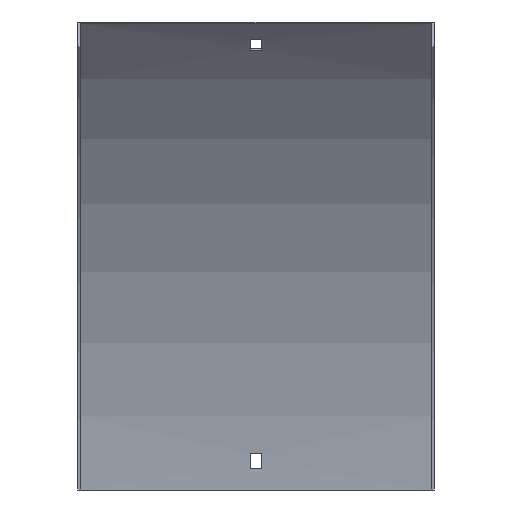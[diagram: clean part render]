
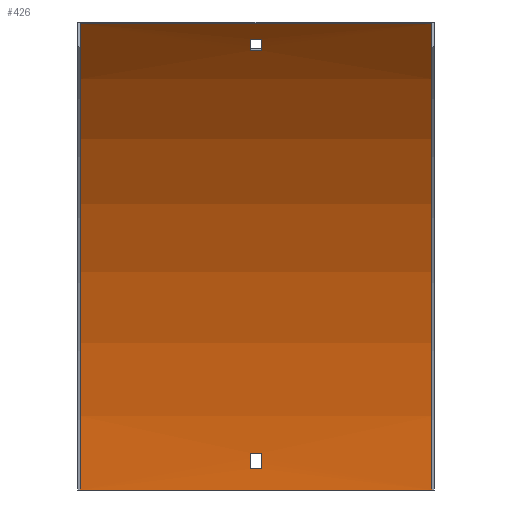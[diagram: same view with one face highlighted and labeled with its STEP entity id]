
A CAD part, front view. The second image highlights one B-rep face of the part: STEP entity #426.
In plain terms, the highlighted cylindrical face has radius 375 mm (diameter 750 mm), a partial arc.
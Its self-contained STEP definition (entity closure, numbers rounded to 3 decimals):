
#1 = CARTESIAN_POINT ( 'NONE',  ( 101.5, -376.5, 0. ) ) ;
#5 = DIRECTION ( 'NONE',  ( -1., 0., 0. ) ) ;
#17 = DIRECTION ( 'NONE',  ( 1., 0., 0. ) ) ;
#22 = CARTESIAN_POINT ( 'NONE',  ( -3.25, -376.5, 0. ) ) ;
#24 = VERTEX_POINT ( 'NONE', #91 ) ;
#30 = CARTESIAN_POINT ( 'NONE',  ( 3.25, -96.902, 249.9 ) ) ;
#36 = ORIENTED_EDGE ( 'NONE', *, *, #331, .T. ) ;
#42 = AXIS2_PLACEMENT_3D ( 'NONE', #203, #387, #578 ) ;
#44 = CARTESIAN_POINT ( 'NONE',  ( 3.25, -376.5, 0. ) ) ;
#59 = DIRECTION ( 'NONE',  ( 1., 0., 0. ) ) ;
#60 = ORIENTED_EDGE ( 'NONE', *, *, #549, .F. ) ;
#62 = VECTOR ( 'NONE', #603, 1000. ) ;
#63 = EDGE_CURVE ( 'NONE', #490, #299, #401, .T. ) ;
#67 = EDGE_LOOP ( 'NONE', ( #177, #158, #397, #457 ) ) ;
#71 = EDGE_LOOP ( 'NONE', ( #118, #60, #410, #191 ) ) ;
#77 = CARTESIAN_POINT ( 'NONE',  ( 3.25, -2.088, 21. ) ) ;
#83 = FACE_OUTER_BOUND ( 'NONE', #71, .T. ) ;
#85 = AXIS2_PLACEMENT_3D ( 'NONE', #206, #571, #389 ) ;
#91 = CARTESIAN_POINT ( 'NONE',  ( -3.25, -1.692, 12. ) ) ;
#100 = DIRECTION ( 'NONE',  ( -1., 0., 0. ) ) ;
#117 = DIRECTION ( 'NONE',  ( -1., 0., 0. ) ) ;
#118 = ORIENTED_EDGE ( 'NONE', *, *, #251, .F. ) ;
#122 = LINE ( 'NONE', #416, #62 ) ;
#135 = AXIS2_PLACEMENT_3D ( 'NONE', #366, #456, #501 ) ;
#136 = AXIS2_PLACEMENT_3D ( 'NONE', #537, #157, #347 ) ;
#146 = LINE ( 'NONE', #432, #480 ) ;
#157 = DIRECTION ( 'NONE',  ( 1., 0., 0. ) ) ;
#158 = ORIENTED_EDGE ( 'NONE', *, *, #562, .F. ) ;
#159 = DIRECTION ( 'NONE',  ( -1., 0., 0. ) ) ;
#162 = VERTEX_POINT ( 'NONE', #282 ) ;
#167 = DIRECTION ( 'NONE',  ( 1., 0., 0. ) ) ;
#175 = FACE_BOUND ( 'NONE', #393, .T. ) ;
#177 = ORIENTED_EDGE ( 'NONE', *, *, #497, .F. ) ;
#185 = DIRECTION ( 'NONE',  ( 0., 0., 1. ) ) ;
#191 = ORIENTED_EDGE ( 'NONE', *, *, #382, .T. ) ;
#194 = EDGE_CURVE ( 'NONE', #24, #162, #208, .T. ) ;
#196 = CARTESIAN_POINT ( 'NONE',  ( -3.25, -96.902, 249.9 ) ) ;
#203 = CARTESIAN_POINT ( 'NONE',  ( 3.25, -376.5, 0. ) ) ;
#206 = CARTESIAN_POINT ( 'NONE',  ( -3.25, -376.5, 0. ) ) ;
#207 = VERTEX_POINT ( 'NONE', #351 ) ;
#208 = LINE ( 'NONE', #298, #312 ) ;
#211 = CIRCLE ( 'NONE', #136, 375. ) ;
#215 = CARTESIAN_POINT ( 'NONE',  ( -100., -111.335, 265.165 ) ) ;
#249 = CARTESIAN_POINT ( 'NONE',  ( 100., -1.5, 0. ) ) ;
#251 = EDGE_CURVE ( 'NONE', #334, #576, #211, .T. ) ;
#255 = LINE ( 'NONE', #447, #523 ) ;
#257 = ORIENTED_EDGE ( 'NONE', *, *, #63, .T. ) ;
#265 = CARTESIAN_POINT ( 'NONE',  ( 100., -1.5, 0. ) ) ;
#277 = VECTOR ( 'NONE', #117, 1000. ) ;
#282 = CARTESIAN_POINT ( 'NONE',  ( 3.25, -1.692, 12. ) ) ;
#296 = EDGE_CURVE ( 'NONE', #492, #544, #375, .T. ) ;
#298 = CARTESIAN_POINT ( 'NONE',  ( 101.5, -1.692, 12. ) ) ;
#299 = VERTEX_POINT ( 'NONE', #30 ) ;
#305 = VERTEX_POINT ( 'NONE', #583 ) ;
#309 = FACE_BOUND ( 'NONE', #67, .T. ) ;
#312 = VECTOR ( 'NONE', #59, 1000. ) ;
#331 = EDGE_CURVE ( 'NONE', #544, #490, #146, .T. ) ;
#333 = EDGE_CURVE ( 'NONE', #299, #492, #335, .T. ) ;
#334 = VERTEX_POINT ( 'NONE', #476 ) ;
#335 = LINE ( 'NONE', #520, #478 ) ;
#343 = EDGE_CURVE ( 'NONE', #162, #540, #378, .T. ) ;
#347 = DIRECTION ( 'NONE',  ( 0., 0., -1. ) ) ;
#351 = CARTESIAN_POINT ( 'NONE',  ( -3.25, -2.088, 21. ) ) ;
#366 = CARTESIAN_POINT ( 'NONE',  ( 100., -376.5, 0. ) ) ;
#375 = CIRCLE ( 'NONE', #600, 375. ) ;
#378 = CIRCLE ( 'NONE', #42, 375. ) ;
#382 = EDGE_CURVE ( 'NONE', #305, #576, #122, .T. ) ;
#387 = DIRECTION ( 'NONE',  ( 1., 0., 0. ) ) ;
#389 = DIRECTION ( 'NONE',  ( 0., 0., 1. ) ) ;
#391 = DIRECTION ( 'NONE',  ( 0., 0., -1. ) ) ;
#393 = EDGE_LOOP ( 'NONE', ( #506, #593, #36, #257 ) ) ;
#397 = ORIENTED_EDGE ( 'NONE', *, *, #343, .F. ) ;
#401 = CIRCLE ( 'NONE', #485, 375. ) ;
#403 = DIRECTION ( 'NONE',  ( -1., 0., 0. ) ) ;
#409 = AXIS2_PLACEMENT_3D ( 'NONE', #1, #403, #413 ) ;
#410 = ORIENTED_EDGE ( 'NONE', *, *, #434, .T. ) ;
#413 = DIRECTION ( 'NONE',  ( 0., 0., 1. ) ) ;
#416 = CARTESIAN_POINT ( 'NONE',  ( 100., -111.335, 265.165 ) ) ;
#426 = ADVANCED_FACE ( 'NONE', ( #309, #83, #175 ), #503, .F. ) ;
#432 = CARTESIAN_POINT ( 'NONE',  ( 101.5, -102.985, 256.544 ) ) ;
#434 = EDGE_CURVE ( 'NONE', #438, #305, #601, .T. ) ;
#438 = VERTEX_POINT ( 'NONE', #265 ) ;
#447 = CARTESIAN_POINT ( 'NONE',  ( 101.5, -2.088, 21. ) ) ;
#456 = DIRECTION ( 'NONE',  ( 1., 0., 0. ) ) ;
#457 = ORIENTED_EDGE ( 'NONE', *, *, #194, .F. ) ;
#468 = CARTESIAN_POINT ( 'NONE',  ( 3.25, -102.985, 256.544 ) ) ;
#476 = CARTESIAN_POINT ( 'NONE',  ( -100., -1.5, 0. ) ) ;
#478 = VECTOR ( 'NONE', #100, 1000. ) ;
#480 = VECTOR ( 'NONE', #17, 1000. ) ;
#485 = AXIS2_PLACEMENT_3D ( 'NONE', #44, #5, #185 ) ;
#490 = VERTEX_POINT ( 'NONE', #468 ) ;
#492 = VERTEX_POINT ( 'NONE', #196 ) ;
#497 = EDGE_CURVE ( 'NONE', #207, #24, #522, .T. ) ;
#501 = DIRECTION ( 'NONE',  ( 0., 0., -1. ) ) ;
#503 = CYLINDRICAL_SURFACE ( 'NONE', #409, 375. ) ;
#506 = ORIENTED_EDGE ( 'NONE', *, *, #333, .T. ) ;
#520 = CARTESIAN_POINT ( 'NONE',  ( 101.5, -96.902, 249.9 ) ) ;
#522 = CIRCLE ( 'NONE', #85, 375. ) ;
#523 = VECTOR ( 'NONE', #159, 1000. ) ;
#532 = CARTESIAN_POINT ( 'NONE',  ( -3.25, -102.985, 256.544 ) ) ;
#537 = CARTESIAN_POINT ( 'NONE',  ( -100., -376.5, 0. ) ) ;
#540 = VERTEX_POINT ( 'NONE', #77 ) ;
#543 = LINE ( 'NONE', #249, #277 ) ;
#544 = VERTEX_POINT ( 'NONE', #532 ) ;
#549 = EDGE_CURVE ( 'NONE', #438, #334, #543, .T. ) ;
#562 = EDGE_CURVE ( 'NONE', #540, #207, #255, .T. ) ;
#571 = DIRECTION ( 'NONE',  ( -1., 0., 0. ) ) ;
#576 = VERTEX_POINT ( 'NONE', #215 ) ;
#578 = DIRECTION ( 'NONE',  ( 0., 0., -1. ) ) ;
#583 = CARTESIAN_POINT ( 'NONE',  ( 100., -111.335, 265.165 ) ) ;
#593 = ORIENTED_EDGE ( 'NONE', *, *, #296, .T. ) ;
#600 = AXIS2_PLACEMENT_3D ( 'NONE', #22, #167, #391 ) ;
#601 = CIRCLE ( 'NONE', #135, 375. ) ;
#603 = DIRECTION ( 'NONE',  ( -1., 0., 0. ) ) ;
